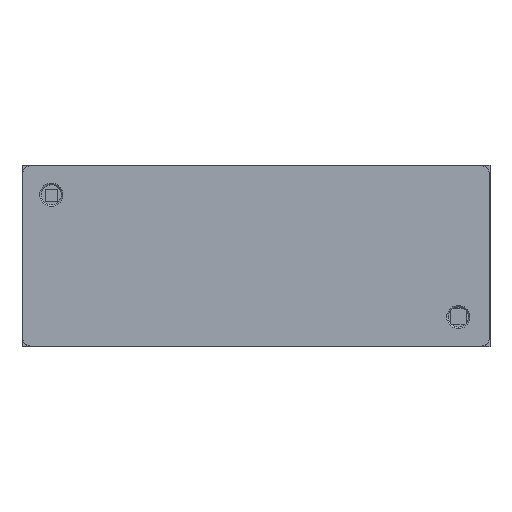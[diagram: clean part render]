
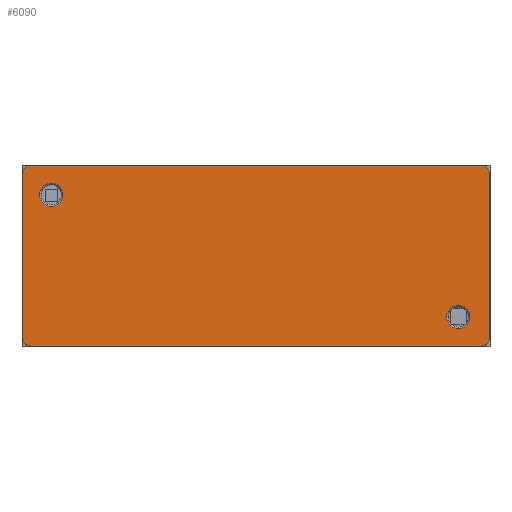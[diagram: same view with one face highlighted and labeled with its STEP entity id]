
A CAD part, top view. The second image highlights one B-rep face of the part: STEP entity #6090.
In plain terms, the highlighted planar face has unit normal (0, 0, 1).
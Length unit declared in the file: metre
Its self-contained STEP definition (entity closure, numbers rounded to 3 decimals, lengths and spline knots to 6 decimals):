
#6090 = ADVANCED_FACE( '', ( #9125, #9126, #9127 ), #9128, .T. );
#9125 = FACE_OUTER_BOUND( '', #14540, .T. );
#9126 = FACE_BOUND( '', #14541, .T. );
#9127 = FACE_BOUND( '', #14542, .T. );
#9128 = PLANE( '', #14543 );
#14540 = EDGE_LOOP( '', ( #23224, #23225, #23226, #23227, #23228, #23229, #23230, #23231 ) );
#14541 = EDGE_LOOP( '', ( #23232, #23233 ) );
#14542 = EDGE_LOOP( '', ( #23234, #23235 ) );
#14543 = AXIS2_PLACEMENT_3D( '', #23236, #23237, #23238 );
#23224 = ORIENTED_EDGE( '', *, *, #38387, .T. );
#23225 = ORIENTED_EDGE( '', *, *, #38388, .F. );
#23226 = ORIENTED_EDGE( '', *, *, #38389, .F. );
#23227 = ORIENTED_EDGE( '', *, *, #38390, .T. );
#23228 = ORIENTED_EDGE( '', *, *, #38391, .T. );
#23229 = ORIENTED_EDGE( '', *, *, #38392, .F. );
#23230 = ORIENTED_EDGE( '', *, *, #38393, .T. );
#23231 = ORIENTED_EDGE( '', *, *, #38394, .T. );
#23232 = ORIENTED_EDGE( '', *, *, #38395, .F. );
#23233 = ORIENTED_EDGE( '', *, *, #38396, .F. );
#23234 = ORIENTED_EDGE( '', *, *, #38397, .F. );
#23235 = ORIENTED_EDGE( '', *, *, #38398, .F. );
#23236 = CARTESIAN_POINT( '', ( 0.026999, 0.009374, 0.0089 ) );
#23237 = DIRECTION( '', ( 0., 0., 1. ) );
#23238 = DIRECTION( '', ( -1., 0., 0. ) );
#38387 = EDGE_CURVE( '', #46053, #46054, #46055, .T. );
#38388 = EDGE_CURVE( '', #46056, #46054, #46057, .T. );
#38389 = EDGE_CURVE( '', #46058, #46056, #46059, .T. );
#38390 = EDGE_CURVE( '', #46058, #46060, #46061, .T. );
#38391 = EDGE_CURVE( '', #46060, #46062, #46063, .T. );
#38392 = EDGE_CURVE( '', #46064, #46062, #46065, .T. );
#38393 = EDGE_CURVE( '', #46064, #46066, #46067, .T. );
#38394 = EDGE_CURVE( '', #46066, #46053, #46068, .T. );
#38395 = EDGE_CURVE( '', #46069, #46070, #46071, .T. );
#38396 = EDGE_CURVE( '', #46070, #46069, #46072, .T. );
#38397 = EDGE_CURVE( '', #46073, #46074, #46075, .T. );
#38398 = EDGE_CURVE( '', #46074, #46073, #46076, .T. );
#46053 = VERTEX_POINT( '', #58849 );
#46054 = VERTEX_POINT( '', #58850 );
#46055 = LINE( '', #58851, #58852 );
#46056 = VERTEX_POINT( '', #58853 );
#46057 = CIRCLE( '', #58854, 0.001 );
#46058 = VERTEX_POINT( '', #58855 );
#46059 = LINE( '', #58856, #58857 );
#46060 = VERTEX_POINT( '', #58858 );
#46061 = CIRCLE( '', #58859, 0.001 );
#46062 = VERTEX_POINT( '', #58860 );
#46063 = LINE( '', #58861, #58862 );
#46064 = VERTEX_POINT( '', #58863 );
#46065 = CIRCLE( '', #58864, 0.001 );
#46066 = VERTEX_POINT( '', #58865 );
#46067 = LINE( '', #58866, #58867 );
#46068 = CIRCLE( '', #58868, 0.001 );
#46069 = VERTEX_POINT( '', #58869 );
#46070 = VERTEX_POINT( '', #58870 );
#46071 = CIRCLE( '', #58871, 0.00145 );
#46072 = CIRCLE( '', #58872, 0.00145 );
#46073 = VERTEX_POINT( '', #58873 );
#46074 = VERTEX_POINT( '', #58874 );
#46075 = CIRCLE( '', #58875, 0.00145 );
#46076 = CIRCLE( '', #58876, 0.00145 );
#58849 = CARTESIAN_POINT( '', ( 0.0011, 0.0001, 0.0089 ) );
#58850 = CARTESIAN_POINT( '', ( 0.0573, 0.0001, 0.0089 ) );
#58851 = CARTESIAN_POINT( '', ( 0.030831, 0.0001, 0.0089 ) );
#58852 = VECTOR( '', #72574, 1. );
#58853 = CARTESIAN_POINT( '', ( 0.0583, 0.0011, 0.0089 ) );
#58854 = AXIS2_PLACEMENT_3D( '', #72575, #72576, #72577 );
#58855 = CARTESIAN_POINT( '', ( 0.0583, 0.0216, 0.0089 ) );
#58856 = CARTESIAN_POINT( '', ( 0.0583, 0.012909, 0.0089 ) );
#58857 = VECTOR( '', #72578, 1. );
#58858 = CARTESIAN_POINT( '', ( 0.0573, 0.0226, 0.0089 ) );
#58859 = AXIS2_PLACEMENT_3D( '', #72579, #72580, #72581 );
#58860 = CARTESIAN_POINT( '', ( 0.0011, 0.0226, 0.0089 ) );
#58861 = CARTESIAN_POINT( '', ( 0.030831, 0.0226, 0.0089 ) );
#58862 = VECTOR( '', #72582, 1. );
#58863 = CARTESIAN_POINT( '', ( 0.0001, 0.0216, 0.0089 ) );
#58864 = AXIS2_PLACEMENT_3D( '', #72583, #72584, #72585 );
#58865 = CARTESIAN_POINT( '', ( 0.0001, 0.0011, 0.0089 ) );
#58866 = CARTESIAN_POINT( '', ( 0.0001, 0.012909, 0.0089 ) );
#58867 = VECTOR( '', #72586, 1. );
#58868 = AXIS2_PLACEMENT_3D( '', #72587, #72588, #72589 );
#58869 = CARTESIAN_POINT( '', ( 0.0559, 0.00373, 0.0089 ) );
#58870 = CARTESIAN_POINT( '', ( 0.053, 0.00373, 0.0089 ) );
#58871 = AXIS2_PLACEMENT_3D( '', #72590, #72591, #72592 );
#58872 = AXIS2_PLACEMENT_3D( '', #72593, #72594, #72595 );
#58873 = CARTESIAN_POINT( '', ( 0.0051, 0.01897, 0.0089 ) );
#58874 = CARTESIAN_POINT( '', ( 0.0022, 0.01897, 0.0089 ) );
#58875 = AXIS2_PLACEMENT_3D( '', #72596, #72597, #72598 );
#58876 = AXIS2_PLACEMENT_3D( '', #72599, #72600, #72601 );
#72574 = DIRECTION( '', ( 1., 0., 0. ) );
#72575 = CARTESIAN_POINT( '', ( 0.0573, 0.0011, 0.0089 ) );
#72576 = DIRECTION( '', ( 0., 0., -1. ) );
#72577 = DIRECTION( '', ( 1., 0., 0. ) );
#72578 = DIRECTION( '', ( 0., -1., 0. ) );
#72579 = CARTESIAN_POINT( '', ( 0.0573, 0.0216, 0.0089 ) );
#72580 = DIRECTION( '', ( 0., 0., 1. ) );
#72581 = DIRECTION( '', ( -1., 0., 0. ) );
#72582 = DIRECTION( '', ( -1., 0., 0. ) );
#72583 = CARTESIAN_POINT( '', ( 0.0011, 0.0216, 0.0089 ) );
#72584 = DIRECTION( '', ( 0., 0., -1. ) );
#72585 = DIRECTION( '', ( 1., 0., 0. ) );
#72586 = DIRECTION( '', ( 0., -1., 0. ) );
#72587 = CARTESIAN_POINT( '', ( 0.0011, 0.0011, 0.0089 ) );
#72588 = DIRECTION( '', ( 0., 0., 1. ) );
#72589 = DIRECTION( '', ( -1., 0., 0. ) );
#72590 = CARTESIAN_POINT( '', ( 0.05445, 0.00373, 0.0089 ) );
#72591 = DIRECTION( '', ( 0., 0., 1. ) );
#72592 = DIRECTION( '', ( -1., 0., 0. ) );
#72593 = CARTESIAN_POINT( '', ( 0.05445, 0.00373, 0.0089 ) );
#72594 = DIRECTION( '', ( 0., 0., 1. ) );
#72595 = DIRECTION( '', ( -1., 0., 0. ) );
#72596 = CARTESIAN_POINT( '', ( 0.00365, 0.01897, 0.0089 ) );
#72597 = DIRECTION( '', ( 0., 0., 1. ) );
#72598 = DIRECTION( '', ( -1., 0., 0. ) );
#72599 = CARTESIAN_POINT( '', ( 0.00365, 0.01897, 0.0089 ) );
#72600 = DIRECTION( '', ( 0., 0., 1. ) );
#72601 = DIRECTION( '', ( -1., 0., 0. ) );
